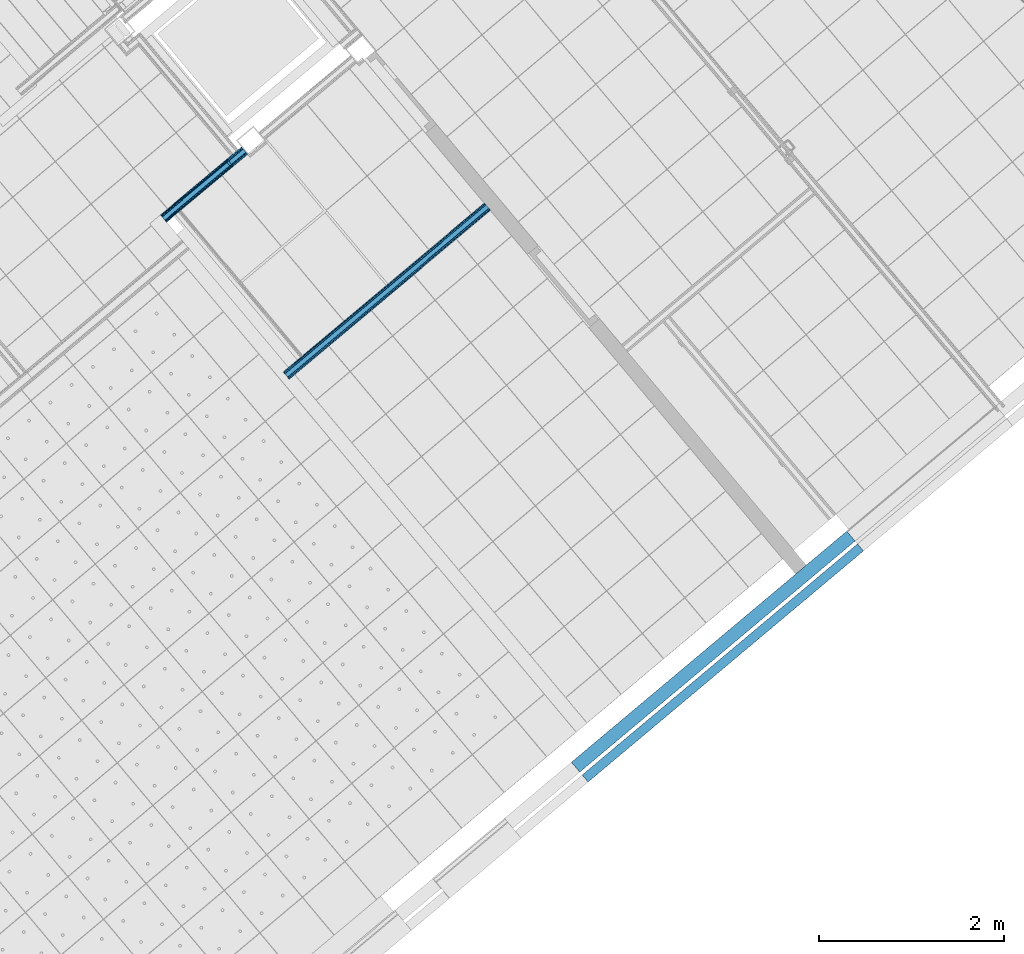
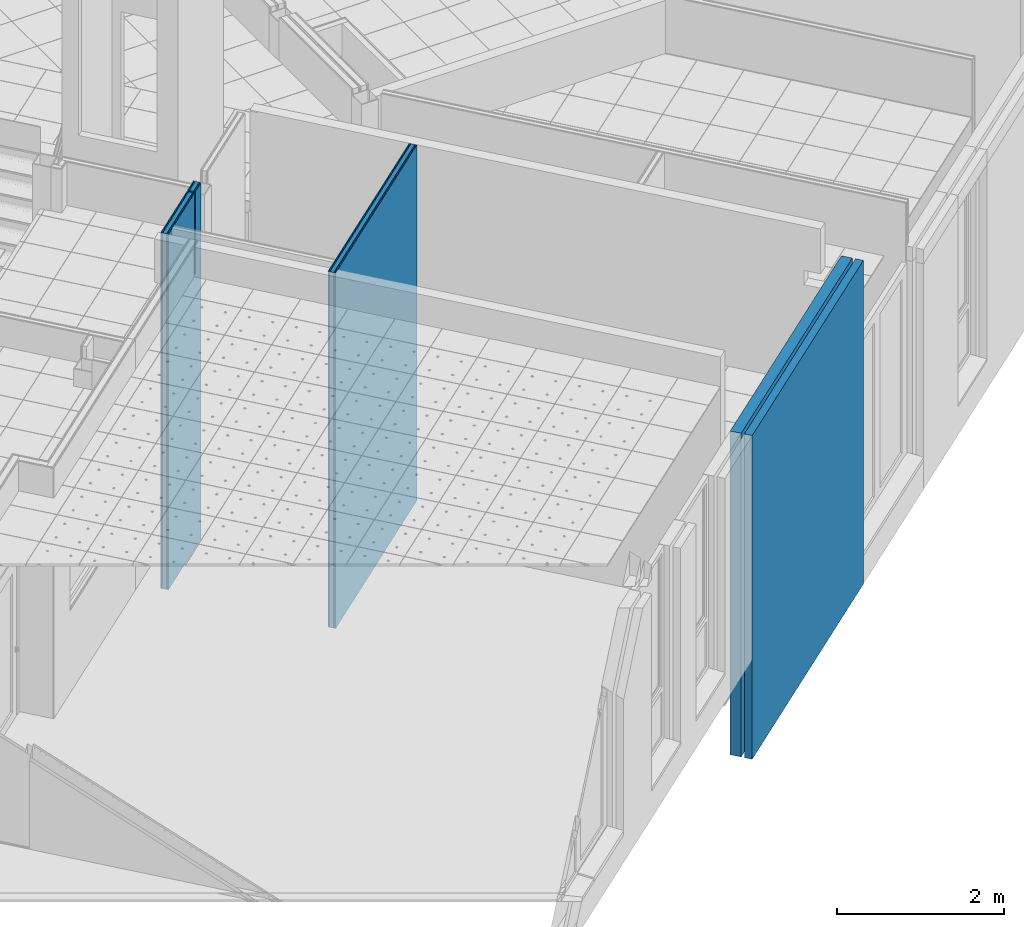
# One storey, part 66 of 338: 12 building element parts, 3 elements without a shape of their own.
"""IFC2X3 building model written with IfcOpenShell, lengths in millimetres."""

import ifcopenshell
import ifcopenshell.guid

model = None  # the IFC model being written
_history = None  # IfcOwnerHistory: only IFC2X3 demands one
_inside = {}  # id of a spatial element -> (the spatial element, [elements in it])
_under = {}  # id of a project, library or spatial element -> (it, [spatial elements below it])
_declared = {}  # id of a project -> (the project, [libraries it declares])
_typed = {}  # id of a type object -> (the type object, [elements of that type])
_made_of = {}  # id of a material, layer set ... -> (it, [elements and type objects made of it])


def new_model(schema):
    """Start an empty IFC model of exactly this schema.

    Asked for "IFC4X3", IfcOpenShell would pick the latest addendum, in which some entities
    have other attributes; the version numbers below select the first issue.
    IFC2X3 requires an IfcOwnerHistory on every rooted entity: one is made here for all.
    """
    global model, _history
    if schema == "IFC4X3":
        model = ifcopenshell.file(schema_version=(4, 3, 0, 0))
    else:
        model = ifcopenshell.file(schema=schema)
    _inside.clear()
    _under.clear()
    _declared.clear()
    _typed.clear()
    _made_of.clear()
    _history = None
    if model.schema == "IFC2X3":
        org = make("IfcOrganization", Name="unknown")
        user = make(
            "IfcPersonAndOrganization",
            ThePerson=make("IfcPerson", FamilyName="unknown"),
            TheOrganization=org,
        )
        app = make(
            "IfcApplication",
            ApplicationDeveloper=org,
            Version="unknown",
            ApplicationFullName="unknown",
            ApplicationIdentifier="unknown",
        )
        _history = make(
            "IfcOwnerHistory",
            OwningUser=user,
            OwningApplication=app,
            ChangeAction="ADDED",
            CreationDate=0,
        )
    return model


def make(cls, **values):
    """One entity of the class cls with the attributes given. An attribute that is None is left unset."""
    return model.create_entity(
        cls, **{name: value for name, value in values.items() if value is not None}
    )


def entity(cls, *values):
    """Any entity or typed value of the class cls, its attributes in the order of the schema. None: left unset."""
    e = model.create_entity(cls)
    for i, value in enumerate(values):
        if value is not None:
            e[i] = value
    return e


def rooted(cls, **values):
    """An entity with a GlobalId (a new one), such as an element, a storey or a relation."""
    return make(cls, GlobalId=ifcopenshell.guid.new(), OwnerHistory=_history, **values)


def si_unit(unit_type, name, prefix=None):
    """IfcSIUnit, for example si_unit("LENGTHUNIT", "METRE", prefix="MILLI")."""
    return make("IfcSIUnit", UnitType=unit_type, Prefix=prefix, Name=name)


def converted_unit(unit_type, name, factor, base, dimensions=None, offset=None):
    """IfcConversionBasedUnit, such as the inch: factor (a typed value) times the base unit."""
    return make(
        "IfcConversionBasedUnit"
        if offset is None
        else "IfcConversionBasedUnitWithOffset",
        ConversionOffset=offset,
        Dimensions=None
        if dimensions is None
        else entity("IfcDimensionalExponents", *dimensions),
        UnitType=unit_type,
        Name=name,
        ConversionFactor=make(
            "IfcMeasureWithUnit", ValueComponent=factor, UnitComponent=base
        ),
    )


def derived_unit(unit_type, elements):
    """IfcDerivedUnit: a product of units, each with its exponent."""
    return make(
        "IfcDerivedUnit",
        Elements=[
            make("IfcDerivedUnitElement", Unit=unit, Exponent=power)
            for unit, power in elements
        ],
        UnitType=unit_type,
    )


def money_unit(currency):
    """IfcMonetaryUnit."""
    return make("IfcMonetaryUnit", Currency=currency)


def assignment(units):
    """IfcUnitAssignment: the units of a project."""
    return None if units is None else make("IfcUnitAssignment", Units=units)


def point(xyz):
    """IfcCartesianPoint."""
    return None if xyz is None else make("IfcCartesianPoint", Coordinates=xyz)


def direction(xyz):
    """IfcDirection."""
    return None if xyz is None else make("IfcDirection", DirectionRatios=xyz)


def frame(location, z_axis=None, x_axis=None):
    """IfcAxis2Placement3D, a coordinate frame: its origin and axes. An axis left out is left unset."""
    return make(
        "IfcAxis2Placement3D",
        Location=point(location),
        Axis=direction(z_axis),
        RefDirection=direction(x_axis),
    )


def origin_with_axes():
    """The frame at (0, 0, 0) with the z axis (0, 0, 1) and the x axis (1, 0, 0) written out."""
    return frame((0.0, 0.0, 0.0), z_axis=(0.0, 0.0, 1.0), x_axis=(1.0, 0.0, 0.0))


def place(relative_to, where):
    """IfcLocalPlacement: puts the frame where relative to a parent placement (None: the world)."""
    return make(
        "IfcLocalPlacement", PlacementRelTo=relative_to, RelativePlacement=where
    )


def context(
    kind, dimensions, precision=None, world=None, true_north=None, identifier=None
):
    """IfcGeometricRepresentationContext, for example the 3D "Model" context."""
    return make(
        "IfcGeometricRepresentationContext",
        ContextIdentifier=identifier,
        ContextType=kind,
        CoordinateSpaceDimension=dimensions,
        Precision=precision,
        WorldCoordinateSystem=world,
        TrueNorth=true_north,
    )


def subcontext(parent, identifier, kind, view, scale=None):
    """IfcGeometricRepresentationSubContext, for example "Body" below "Model"."""
    return make(
        "IfcGeometricRepresentationSubContext",
        ContextIdentifier=identifier,
        ContextType=kind,
        ParentContext=parent,
        TargetScale=scale,
        TargetView=view,
    )


def project(units=None, contexts=None):
    """IfcProject with its units and contexts."""
    return rooted(
        "IfcProject",
        Name="project",
        RepresentationContexts=contexts,
        UnitsInContext=assignment(units),
    )


def spatial(cls, under=None, at=None, **own):
    """A site, building, storey or space (cls), placed at a placement, below another one or the project."""
    s = rooted(cls, ObjectPlacement=at, **own)
    if under is not None:
        _under.setdefault(under.id(), (under, []))[1].append(s)
    return s


def faces_of(points, faces, orient=None, outer=None):
    """IfcFace entities. A face is a list of loops; a loop is a list of indices into points, from 0.

    orient and outer hold one flag for each loop. By default every Orientation is true, the
    first loop of a face is its IfcFaceOuterBound and the others are IfcFaceBound.
    """
    made = []
    for i, loops in enumerate(faces):
        bounds = []
        for j, loop in enumerate(loops):
            is_outer = j == 0 if outer is None else outer[i][j]
            bounds.append(
                make(
                    "IfcFaceOuterBound" if is_outer else "IfcFaceBound",
                    Bound=make("IfcPolyLoop", Polygon=[points[k] for k in loop]),
                    Orientation=True if orient is None else orient[i][j],
                )
            )
        made.append(make("IfcFace", Bounds=bounds))
    return made


def faceted_brep(points, faces, orient=None, outer=None, voids=None):
    """IfcFacetedBrep: a solid bounded by flat faces; with voids (closed shells), ...WithVoids."""
    shared = [point(p) for p in points]
    hull = make("IfcClosedShell", CfsFaces=faces_of(shared, faces, orient, outer))
    if voids is None:
        return make("IfcFacetedBrep", Outer=hull)
    return make(
        "IfcFacetedBrepWithVoids",
        Outer=hull,
        Voids=[
            make(cls, CfsFaces=faces_of(shared, fs, o, b)) for cls, fs, o, b in voids
        ],
    )


def shape(context_of_items, identifier, shape_type, items):
    """IfcShapeRepresentation: the items that make up one representation, for example the "Body"."""
    return make(
        "IfcShapeRepresentation",
        ContextOfItems=context_of_items,
        RepresentationIdentifier=identifier,
        RepresentationType=shape_type,
        Items=items,
    )


def material(Name=None, Category=None):
    """IfcMaterial."""
    return make("IfcMaterial", Name=Name, Category=Category)


def made_of(thing, what):
    """Note that an element or type object is made of a material, layer set ...; save() writes the relation."""
    if what is not None:
        _made_of.setdefault(what.id(), (what, []))[1].append(thing)
    return thing


def type_object(cls, material=None, **own):
    """A type object (cls), such as IfcWallType, which elements share."""
    return made_of(rooted(cls, **own), material)


def element(
    cls,
    number,
    at=None,
    inside=None,
    cuts=None,
    type_object=None,
    material=None,
    context=None,
    identifier="Body",
    shape_type=None,
    held_by="IfcProductDefinitionShape",
    body=None,
    shapes=None,
    **own,
):
    """One element of the class cls, such as IfcWall. Its Tag is "e" and its number.

    at: its placement. inside: the storey or other place that contains it. cuts: it is an
    opening in that element (IfcRelVoidsElement). A single representation is given by context,
    identifier, shape_type and body (its items); several are given by shapes. held_by: the class
    of the entity that holds the representations. save() writes the other relations.
    """
    e = rooted(cls, Tag="e%d" % number, ObjectPlacement=at, **own)
    if body is not None:
        shapes = [shape(context, identifier, shape_type, body)]
    if shapes is not None:
        e.Representation = make(held_by, Representations=shapes)
    if inside is not None:
        _inside.setdefault(inside.id(), (inside, []))[1].append(e)
    if cuts is not None:
        rooted(
            "IfcRelVoidsElement", RelatingBuildingElement=cuts, RelatedOpeningElement=e
        )
    if type_object is not None:
        _typed.setdefault(type_object.id(), (type_object, []))[1].append(e)
    return made_of(e, material)


def aggregate(whole, parts):
    """IfcRelAggregates: a whole, such as a stair, and the parts it consists of."""
    return rooted("IfcRelAggregates", RelatingObject=whole, RelatedObjects=parts)


def save(model, path):
    """Write the relations noted so far, then the file.

    IfcRelAggregates (storeys below a building ...), IfcRelContainedInSpatialStructure (elements
    in a storey), IfcRelDefinesByType, IfcRelAssociatesMaterial and IfcRelDeclares: one each for
    every whole, place, type object, material and project.
    """
    for whole, parts in _under.values():
        aggregate(whole, parts)
    for where, things in _inside.values():
        rooted(
            "IfcRelContainedInSpatialStructure",
            RelatedElements=things,
            RelatingStructure=where,
        )
    for kind, things in _typed.values():
        rooted("IfcRelDefinesByType", RelatedObjects=things, RelatingType=kind)
    for what, things in _made_of.values():
        rooted("IfcRelAssociatesMaterial", RelatedObjects=things, RelatingMaterial=what)
    for by, libraries in _declared.values():
        rooted("IfcRelDeclares", RelatingContext=by, RelatedDefinitions=libraries)
    model.write(path)


model = new_model("IFC2X3")

# Units and contexts
model_context = context("Model", 3, precision=0.01, world=origin_with_axes(), true_north=direction((0.0, 1.0)))
plan_context = context("Plan", 3, precision=0.01, world=origin_with_axes(), true_north=direction((0.0, 1.0)))
body_context = subcontext(model_context, "Body", "Model", "MODEL_VIEW")
ifc_project = project(units=[si_unit("LENGTHUNIT", "METRE", prefix="MILLI"), si_unit("AREAUNIT", "SQUARE_METRE"), si_unit("VOLUMEUNIT", "CUBIC_METRE"), converted_unit("PLANEANGLEUNIT", "DEGREE", entity("IfcPlaneAngleMeasure", 0.0174532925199), si_unit("PLANEANGLEUNIT", "RADIAN"), dimensions=[0, 0, 0, 0, 0, 0, 0]), money_unit("EUR"), converted_unit("TIMEUNIT", "Year", entity("IfcTimeMeasure", 31556926.0), si_unit("TIMEUNIT", "SECOND"), dimensions=[0, 0, 1, 0, 0, 0, 0]), si_unit("MASSUNIT", "GRAM", prefix="KILO"), si_unit("THERMODYNAMICTEMPERATUREUNIT", "DEGREE_CELSIUS"), si_unit("LUMINOUSINTENSITYUNIT", "LUMEN"), si_unit("ENERGYUNIT", "JOULE", prefix="MEGA"), derived_unit("THERMALCONDUCTANCEUNIT", [(si_unit("POWERUNIT", "WATT"), 1), (si_unit("LENGTHUNIT", "METRE"), -1), (si_unit("THERMODYNAMICTEMPERATUREUNIT", "KELVIN"), -1)]), derived_unit("SPECIFICHEATCAPACITYUNIT", [(si_unit("ENERGYUNIT", "JOULE"), 1), (si_unit("MASSUNIT", "GRAM", prefix="KILO"), -1), (si_unit("THERMODYNAMICTEMPERATUREUNIT", "KELVIN"), -1)]), derived_unit("MASSDENSITYUNIT", [(si_unit("MASSUNIT", "GRAM", prefix="KILO"), 1), (si_unit("VOLUMEUNIT", "CUBIC_METRE"), -1)])], contexts=[model_context, plan_context])

# Site, building, storey
site_placement = place(None, origin_with_axes())
site = spatial("IfcSite", under=ifc_project, at=site_placement, Name="Fortuinstraat Woensdrecht", CompositionType="ELEMENT")
building_placement = place(site_placement, origin_with_axes())
building = spatial("IfcBuilding", under=site, at=building_placement, Name="IKC Fortuna", CompositionType="ELEMENT")
storey_placement = place(building_placement, origin_with_axes())
storey = spatial("IfcBuildingStorey", under=building, at=storey_placement, Name="00 begane grond", CompositionType="ELEMENT", Elevation=0.0)

# Wall, building element parts
wall_type_1 = type_object("IfcWallType", Name="21 MW accent 280", PredefinedType="NOTDEFINED")
wall_1_placement = place(storey_placement, frame((25440.1649584, -7278.13800676, -485.0), z_axis=(0.0, 0.0, 1.0), x_axis=(0.766044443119, 0.642787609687, 0.0)))
wall_1 = element("IfcWall", 1, at=wall_1_placement, inside=storey, type_object=wall_type_1, Name="21_Wand_Baksteen")
ifc_material_1 = material(Name="ALG - ISOLATIE")
building_element_part_1_placement = place(wall_1_placement, origin_with_axes())
building_element_part_1 = element("IfcBuildingElementPart", 2, at=building_element_part_1_placement, material=ifc_material_1, Name="ALG - ISOLATIE", context=body_context, shape_type="Brep", body=[
    faceted_brep([(0.0, 0.0, 0.0), (3886.96415741, 0.0, 0.0), (3886.96415741, -140.0, 0.0), (0.0, -140.0, 0.0), (0.0, 0.0, 4722.5), (3886.96415741, 0.0, 4722.5), (3886.96415741, -140.0, 4722.5), (0.0, -140.0, 4722.5)], [[[0, 1, 2, 3]], [[4, 5, 1, 0]], [[2, 1, 5, 6]], [[3, 2, 6, 7]], [[4, 0, 3, 7]], [[7, 6, 5, 4]]]),
])
ifc_material_2 = material(Name="Steen - Baksteen Accent")
building_element_part_2_placement = place(wall_1_placement, origin_with_axes())
building_element_part_2 = element("IfcBuildingElementPart", 3, at=building_element_part_2_placement, material=ifc_material_2, Name="Steen - Baksteen Accent", context=body_context, shape_type="Brep", body=[
    faceted_brep([(0.0, -280.0, 0.0), (0.0, -180.0, 0.0), (3886.96415741, -180.0, 0.0), (3886.96415741, -280.0, 0.0), (0.0, -280.0, 4722.5), (0.0, -180.0, 4722.5), (3886.96415741, -180.0, 4722.5), (3886.96415741, -280.0, 4722.5)], [[[0, 1, 2, 3]], [[4, 5, 1, 0]], [[1, 5, 6, 2]], [[7, 3, 2, 6]], [[4, 0, 3, 7]], [[5, 4, 7, 6]]]),
])
aggregate(wall_1, [building_element_part_1, building_element_part_2])

wall_type_2 = type_object("IfcWallType", Name="MS100 2.50.2A 100", PredefinedType="NOTDEFINED")
wall_2_placement = place(storey_placement, frame((22388.1968425, -3135.33371801, -90.0), z_axis=(0.0, 0.0, 1.0), x_axis=(0.766044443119, 0.642787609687, 0.0)))
wall_2 = element("IfcWall", 4, at=wall_2_placement, inside=storey, type_object=wall_type_2, Name="22_Wand_Binnenwand")
ifc_material_3 = material(Name="Gipsplaat")
building_element_part_3_placement = place(wall_2_placement, origin_with_axes())
building_element_part_3 = element("IfcBuildingElementPart", 5, at=building_element_part_3_placement, material=ifc_material_3, Name="Gipsplaat", context=body_context, shape_type="Brep", body=[
    faceted_brep([(2839.85279765, 87.5, 5190.0), (2839.85279765, 100.0, 5190.0), (0.0, 100.0, 5190.0), (0.0, 87.5, 5190.0), (2839.85279765, 87.5, 0.0), (2839.85279765, 100.0, 0.0), (0.0, 100.0, 0.0), (0.0, 87.5, 0.0)], [[[0, 1, 2, 3]], [[0, 4, 5, 1]], [[1, 5, 6, 2]], [[3, 2, 6, 7]], [[4, 0, 3, 7]], [[5, 4, 7, 6]]]),
])
building_element_part_4_placement = place(wall_2_placement, origin_with_axes())
building_element_part_4 = element("IfcBuildingElementPart", 6, at=building_element_part_4_placement, material=ifc_material_3, Name="Gipsplaat", context=body_context, shape_type="Brep", body=[
    faceted_brep([(2839.85279765, 75.0, 5190.0), (2839.85279765, 87.5, 5190.0), (0.0, 87.5, 5190.0), (0.0, 75.0, 5190.0), (2839.85279765, 75.0, 0.0), (2839.85279765, 87.5, 0.0), (0.0, 87.5, 0.0), (0.0, 75.0, 0.0)], [[[0, 1, 2, 3]], [[0, 4, 5, 1]], [[1, 5, 6, 2]], [[3, 2, 6, 7]], [[4, 0, 3, 7]], [[5, 4, 7, 6]]]),
])
ifc_material_4 = material(Name="Isolatie - Steenwol LSW")
building_element_part_5_placement = place(wall_2_placement, origin_with_axes())
building_element_part_5 = element("IfcBuildingElementPart", 7, at=building_element_part_5_placement, material=ifc_material_4, Name="Isolatie - Steenwol LSW", context=body_context, shape_type="Brep", body=[
    faceted_brep([(2839.85279765, 25.0, 5190.0), (2839.85279765, 75.0, 5190.0), (0.0, 75.0, 5190.0), (0.0, 25.0, 5190.0), (2839.85279765, 25.0, 0.0), (2839.85279765, 75.0, 0.0), (0.0, 75.0, 0.0), (0.0, 25.0, 0.0)], [[[0, 1, 2, 3]], [[0, 4, 5, 1]], [[1, 5, 6, 2]], [[3, 2, 6, 7]], [[4, 0, 3, 7]], [[5, 4, 7, 6]]]),
])
building_element_part_6_placement = place(wall_2_placement, origin_with_axes())
building_element_part_6 = element("IfcBuildingElementPart", 8, at=building_element_part_6_placement, material=ifc_material_3, Name="Gipsplaat", context=body_context, shape_type="Brep", body=[
    faceted_brep([(2839.85279765, 12.5, 5190.0), (2839.85279765, 25.0, 5190.0), (0.0, 25.0, 5190.0), (0.0, 12.5, 5190.0), (2839.85279765, 12.5, 0.0), (2839.85279765, 25.0, 0.0), (0.0, 25.0, 0.0), (0.0, 12.5, 0.0)], [[[0, 1, 2, 3]], [[0, 4, 5, 1]], [[1, 5, 6, 2]], [[3, 2, 6, 7]], [[4, 0, 3, 7]], [[5, 4, 7, 6]]]),
])
building_element_part_7_placement = place(wall_2_placement, origin_with_axes())
building_element_part_7 = element("IfcBuildingElementPart", 9, at=building_element_part_7_placement, material=ifc_material_3, Name="Gipsplaat", context=body_context, shape_type="Brep", body=[
    faceted_brep([(2839.85279765, 0.0, 5190.0), (2839.85279765, 12.5, 5190.0), (0.0, 12.5, 5190.0), (0.0, 0.0, 5190.0), (2839.85279765, 0.0, 0.0), (2839.85279765, 12.5, 0.0), (0.0, 12.5, 0.0), (0.0, 0.0, 0.0)], [[[0, 1, 2, 3]], [[0, 4, 5, 1]], [[1, 5, 6, 2]], [[3, 2, 6, 7]], [[4, 0, 3, 7]], [[5, 4, 7, 6]]]),
])
aggregate(wall_2, [building_element_part_3, building_element_part_4, building_element_part_5, building_element_part_6, building_element_part_7])

wall_3_placement = place(storey_placement, frame((21061.3016366, -1437.32230241, -90.0), z_axis=(0.0, 0.0, 1.0), x_axis=(0.766044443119, 0.642787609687, 0.0)))
wall_3 = element("IfcWall", 10, at=wall_3_placement, inside=storey, type_object=wall_type_2, Name="22_Wand_Binnenwand")
building_element_part_8_placement = place(wall_3_placement, origin_with_axes())
building_element_part_8 = element("IfcBuildingElementPart", 11, at=building_element_part_8_placement, material=ifc_material_3, Name="Gipsplaat", context=body_context, shape_type="Brep", body=[
    faceted_brep([(940.009948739, 100.0, 5190.0), (940.010116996, 87.5, 5190.0), (1143.80344111, 87.5, 5190.0), (1143.80344111, 100.0, 5190.0), (940.010116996, 87.5, 4000.0), (940.009948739, 100.0, 4000.0), (915.010116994, 87.5, 4000.0), (915.010116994, 87.5, 5190.0), (0.0, 87.5, 5190.0), (0.0, 87.5, 0.0), (1143.80344111, 87.5, 0.0), (1143.80344111, 100.0, 0.0), (0.0, 100.0, 0.0), (0.0, 100.0, 5190.0), (915.009948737, 100.0, 5190.0), (915.009948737, 100.0, 4000.0)], [[[0, 1, 2, 3]], [[4, 1, 0, 5]], [[4, 6, 7, 8, 9, 10, 2, 1]], [[3, 2, 10, 11]], [[5, 0, 3, 11, 12, 13, 14, 15]], [[4, 5, 15, 6]], [[14, 7, 6, 15]], [[7, 14, 13, 8]], [[9, 8, 13, 12]], [[12, 11, 10, 9]]]),
])
building_element_part_9_placement = place(wall_3_placement, origin_with_axes())
building_element_part_9 = element("IfcBuildingElementPart", 12, at=building_element_part_9_placement, material=ifc_material_3, Name="Gipsplaat", context=body_context, shape_type="Brep", body=[
    faceted_brep([(940.010116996, 87.5, 5190.0), (940.010285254, 75.0, 5190.0), (1143.80344111, 75.0, 5190.0), (1143.80344111, 87.5, 5190.0), (940.010285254, 75.0, 4000.0), (940.010116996, 87.5, 4000.0), (915.010285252, 75.0, 4000.0), (915.010285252, 75.0, 5190.0), (0.0, 75.0, 5190.0), (0.0, 75.0, 0.0), (1143.80344111, 75.0, 0.0), (1143.80344111, 87.5, 0.0), (0.0, 87.5, 0.0), (0.0, 87.5, 5190.0), (915.010116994, 87.5, 5190.0), (915.010116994, 87.5, 4000.0)], [[[0, 1, 2, 3]], [[4, 1, 0, 5]], [[4, 6, 7, 8, 9, 10, 2, 1]], [[3, 2, 10, 11]], [[5, 0, 3, 11, 12, 13, 14, 15]], [[4, 5, 15, 6]], [[14, 7, 6, 15]], [[7, 14, 13, 8]], [[9, 8, 13, 12]], [[12, 11, 10, 9]]]),
])
building_element_part_10_placement = place(wall_3_placement, origin_with_axes())
building_element_part_10 = element("IfcBuildingElementPart", 13, at=building_element_part_10_placement, material=ifc_material_4, Name="Isolatie - Steenwol LSW", context=body_context, shape_type="Brep", body=[
    faceted_brep([(940.010285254, 75.0, 5190.0), (940.010958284, 25.0, 5190.0), (1143.80344111, 25.0, 5190.0), (1143.80344111, 75.0, 5190.0), (940.010958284, 25.0, 4000.0), (940.010285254, 75.0, 4000.0), (915.010958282, 25.0, 4000.0), (915.010958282, 25.0, 5190.0), (0.0, 25.0, 5190.0), (0.0, 25.0, 0.0), (1143.80344111, 25.0, 0.0), (1143.80344111, 75.0, 0.0), (0.0, 75.0, 0.0), (0.0, 75.0, 5190.0), (915.010285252, 75.0, 5190.0), (915.010285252, 75.0, 4000.0)], [[[0, 1, 2, 3]], [[4, 1, 0, 5]], [[4, 6, 7, 8, 9, 10, 2, 1]], [[3, 2, 10, 11]], [[5, 0, 3, 11, 12, 13, 14, 15]], [[4, 5, 15, 6]], [[14, 7, 6, 15]], [[7, 14, 13, 8]], [[9, 8, 13, 12]], [[12, 11, 10, 9]]]),
])
building_element_part_11_placement = place(wall_3_placement, origin_with_axes())
building_element_part_11 = element("IfcBuildingElementPart", 14, at=building_element_part_11_placement, material=ifc_material_3, Name="Gipsplaat", context=body_context, shape_type="Brep", body=[
    faceted_brep([(940.010958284, 25.0, 5190.0), (940.011126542, 12.5, 5190.0), (1143.80344111, 12.5, 5190.0), (1143.80344111, 25.0, 5190.0), (940.011126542, 12.5, 4000.0), (940.010958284, 25.0, 4000.0), (915.011126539, 12.5, 4000.0), (915.011126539, 12.5, 5190.0), (0.0, 12.5, 5190.0), (0.0, 12.5, 0.0), (1143.80344111, 12.5, 0.0), (1143.80344111, 25.0, 0.0), (0.0, 25.0, 0.0), (0.0, 25.0, 5190.0), (915.010958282, 25.0, 5190.0), (915.010958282, 25.0, 4000.0)], [[[0, 1, 2, 3]], [[4, 1, 0, 5]], [[4, 6, 7, 8, 9, 10, 2, 1]], [[3, 2, 10, 11]], [[5, 0, 3, 11, 12, 13, 14, 15]], [[4, 5, 15, 6]], [[14, 7, 6, 15]], [[7, 14, 13, 8]], [[9, 8, 13, 12]], [[12, 11, 10, 9]]]),
])
building_element_part_12_placement = place(wall_3_placement, origin_with_axes())
building_element_part_12 = element("IfcBuildingElementPart", 15, at=building_element_part_12_placement, material=ifc_material_3, Name="Gipsplaat", context=body_context, shape_type="Brep", body=[
    faceted_brep([(940.011126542, 12.5, 5190.0), (940.011294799, 0.0, 5190.0), (1143.80344111, 0.0, 5190.0), (1143.80344111, 12.5, 5190.0), (940.011294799, 0.0, 4000.0), (940.011126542, 12.5, 4000.0), (915.011294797, 0.0, 4000.0), (915.011294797, 0.0, 5190.0), (0.0, 0.0, 5190.0), (0.0, 0.0, 0.0), (1143.80344111, 0.0, 0.0), (1143.80344111, 12.5, 0.0), (0.0, 12.5, 0.0), (0.0, 12.5, 5190.0), (915.011126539, 12.5, 5190.0), (915.011126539, 12.5, 4000.0)], [[[0, 1, 2, 3]], [[4, 1, 0, 5]], [[4, 6, 7, 8, 9, 10, 2, 1]], [[3, 2, 10, 11]], [[5, 0, 3, 11, 12, 13, 14, 15]], [[4, 5, 15, 6]], [[14, 7, 6, 15]], [[7, 14, 13, 8]], [[9, 8, 13, 12]], [[12, 11, 10, 9]]]),
])
aggregate(wall_3, [building_element_part_8, building_element_part_9, building_element_part_10, building_element_part_11, building_element_part_12])

save(model, "model.ifc")
